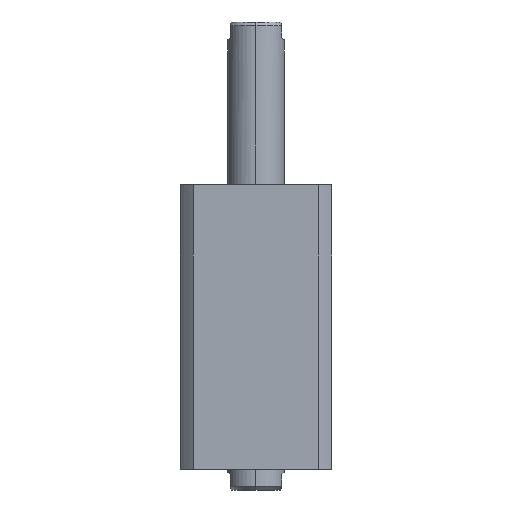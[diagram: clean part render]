
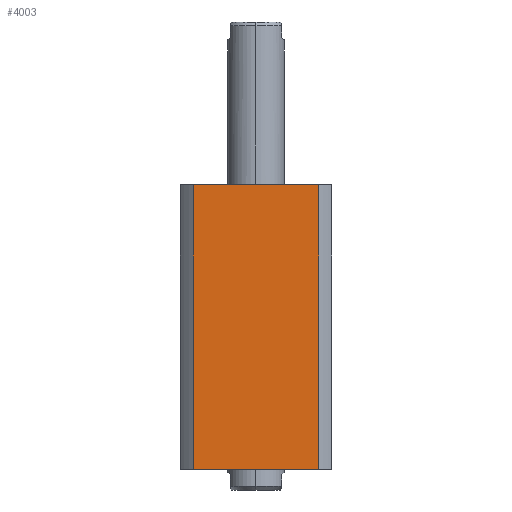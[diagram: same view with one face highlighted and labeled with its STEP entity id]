
A CAD part, left-side view. The second image highlights one B-rep face of the part: STEP entity #4003.
In plain terms, the highlighted planar face has unit normal (-1, 0, 0).
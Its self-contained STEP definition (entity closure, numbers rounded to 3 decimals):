
#255 = ORIENTED_EDGE ( 'NONE', *, *, #4666, .F. ) ;
#787 = VECTOR ( 'NONE', #7948, 1000. ) ;
#1240 = VERTEX_POINT ( 'NONE', #9424 ) ;
#1673 = CARTESIAN_POINT ( 'NONE',  ( -40., 33.226, 75. ) ) ;
#1825 = VECTOR ( 'NONE', #4700, 1000. ) ;
#1987 = VERTEX_POINT ( 'NONE', #2076 ) ;
#2076 = CARTESIAN_POINT ( 'NONE',  ( -40., -33.226, -75. ) ) ;
#2597 = LINE ( 'NONE', #6606, #6603 ) ;
#2619 = CARTESIAN_POINT ( 'NONE',  ( -40., -33.226, 75. ) ) ;
#2652 = EDGE_CURVE ( 'NONE', #1240, #1987, #8741, .T. ) ;
#2733 = FACE_OUTER_BOUND ( 'NONE', #7704, .T. ) ;
#2985 = AXIS2_PLACEMENT_3D ( 'NONE', #1673, #8551, #4736 ) ;
#3501 = VERTEX_POINT ( 'NONE', #5293 ) ;
#3628 = LINE ( 'NONE', #8809, #4929 ) ;
#3656 = DIRECTION ( 'NONE',  ( 0., -1., 0. ) ) ;
#3939 = CARTESIAN_POINT ( 'NONE',  ( -40., 33.226, 75. ) ) ;
#4003 = ADVANCED_FACE ( 'NONE', ( #2733 ), #6915, .F. ) ;
#4666 = EDGE_CURVE ( 'NONE', #9518, #1240, #2597, .T. ) ;
#4700 = DIRECTION ( 'NONE',  ( 0., 0., -1. ) ) ;
#4736 = DIRECTION ( 'NONE',  ( 0., 1., 0. ) ) ;
#4929 = VECTOR ( 'NONE', #3656, 1000. ) ;
#5124 = DIRECTION ( 'NONE',  ( 0., -1., 0. ) ) ;
#5293 = CARTESIAN_POINT ( 'NONE',  ( -40., 33.226, -75. ) ) ;
#5312 = CARTESIAN_POINT ( 'NONE',  ( -40., 33.226, 75. ) ) ;
#5607 = LINE ( 'NONE', #3939, #1825 ) ;
#6359 = ORIENTED_EDGE ( 'NONE', *, *, #8343, .T. ) ;
#6603 = VECTOR ( 'NONE', #5124, 1000. ) ;
#6606 = CARTESIAN_POINT ( 'NONE',  ( -40., 33.226, 75. ) ) ;
#6757 = ORIENTED_EDGE ( 'NONE', *, *, #2652, .F. ) ;
#6915 = PLANE ( 'NONE',  #2985 ) ;
#6923 = ORIENTED_EDGE ( 'NONE', *, *, #7117, .T. ) ;
#7117 = EDGE_CURVE ( 'NONE', #9518, #3501, #5607, .T. ) ;
#7704 = EDGE_LOOP ( 'NONE', ( #6359, #6757, #255, #6923 ) ) ;
#7948 = DIRECTION ( 'NONE',  ( 0., 0., -1. ) ) ;
#8343 = EDGE_CURVE ( 'NONE', #3501, #1987, #3628, .T. ) ;
#8551 = DIRECTION ( 'NONE',  ( 1., 0., 0. ) ) ;
#8741 = LINE ( 'NONE', #2619, #787 ) ;
#8809 = CARTESIAN_POINT ( 'NONE',  ( -40., 33.226, -75. ) ) ;
#9424 = CARTESIAN_POINT ( 'NONE',  ( -40., -33.226, 75. ) ) ;
#9518 = VERTEX_POINT ( 'NONE', #5312 ) ;
